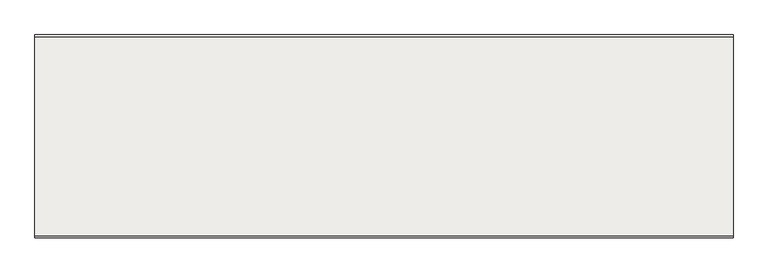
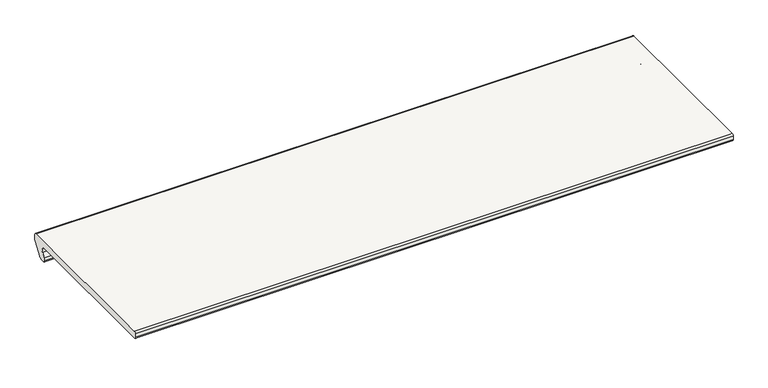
"""IFC4 building model written with IfcOpenShell, lengths in millimetres: slab geometry, ROSA GRES_J62 : Pieza J62_Tao_Beige_Anti-Slip."""

from ifc_helpers import new_model, si_unit, frame, origin, place, context, project, spatial, polyline, circle_curve, source, transform, mapped, element, save
from ifc_brep_helpers import plane_surface, cylinder_surface, revolved_surface, advanced_brep


def slab_45b15912(model_context):
    return source(origin(), model_context, "Body", "AdvancedBrep", [
        advanced_brep(
        [(1090.0, -317.0, 2.5), (1090.0, -314.5, 0.0), (1090.0, -29.6363327, 0.0), (1090.0, -24.5931401, -10.7276172), (1090.0, -29.4411632, -18.2354274), (1090.0, -29.4411632, -24.4017055), (1090.0, -26.7240304, -27.1188383), (1090.0, -20.3835268, -27.1188383), (1090.0, -19.4823107, -26.1230058), (1090.0, -18.5721049, -25.1262743), (1090.0, -17.666394, -25.1262743), (1090.0, -14.760096, -23.1626329), (1090.0, -0.7963935, -2.84429), (1090.0, 0.0, -0.2793766), (1090.0, 0.0, 8.2984975), (1090.0, -3.9876034, 12.7946269), (1090.0, -314.2818333, 12.7946269), (1090.0, -316.9989661, 10.0774941), (0.0, -317.0, 2.5), (0.0, -317.0, 10.0774941), (0.0, -314.2818333, 12.7946269), (0.0, -3.9876034, 12.7946269), (0.0, 0.0, 8.2984975), (0.0, 0.0, -0.2793766), (0.0, -0.7963935, -2.84429), (0.0, -14.760096, -23.1626329), (0.0, -17.666394, -25.1262743), (0.0, -18.5721049, -25.1262743), (0.0, -19.473321, -26.1221068), (0.0, -20.3835268, -27.1188383), (0.0, -26.7240304, -27.1188383), (0.0, -29.4411632, -24.4017055), (0.0, -29.4411632, -18.2354274), (0.0, -24.5931401, -10.7276172), (0.0, -29.6363327, 0.0), (0.0, -314.5, 0.0)],
        [
            (0, 1, circle_curve(frame((1090.0, -314.5, 2.5), z_axis=(1.0, 0.0, 0.0), x_axis=(0.0, -1.0, 0.0)), 2.5)),
            (1, 2),
            (2, 3, circle_curve(frame((1090.0, -30.1604402, -6.7956336), z_axis=(-1.0, 0.0, 0.0), x_axis=(0.0, 0.5768912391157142, 0.8168209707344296)), 6.8158144)),
            (3, 4),
            (4, 5),
            (5, 6, circle_curve(frame((1090.0, -26.7240304, -24.4017055), z_axis=(1.0, 0.0, 0.0), x_axis=(0.0, -1.0, 0.0)), 2.7171328)),
            (6, 7),
            (7, 8, circle_curve(frame((1090.0, -20.3835268, -26.2131274), z_axis=(1.0, 0.0, 0.0), x_axis=(0.0, 0.0995037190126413, -0.9950371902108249)), 0.9057109)),
            (8, 9, circle_curve(frame((1090.0, -18.5721049, -26.0319852), z_axis=(-1.0, 0.0, 0.0), x_axis=(0.0, -1.0, 0.0)), 0.9057109)),
            (9, 10),
            (10, 11, circle_curve(frame((1090.0, -18.9818017, -20.0468365), z_axis=(1.0, 0.0, 0.0), x_axis=(0.0, -0.5938246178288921, -0.804594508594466)), 5.2469978)),
            (11, 12),
            (12, 13, circle_curve(frame((1090.0, -4.5285547, -0.2793766), z_axis=(1.0, 0.0, 0.0), x_axis=(0.0, 0.0, -1.0)), 4.5285547)),
            (13, 14),
            (14, 15, circle_curve(frame((1090.0, -4.5285547, 8.2984975), z_axis=(1.0, 0.0, 0.0), x_axis=(0.0, 0.9928398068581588, -0.11945341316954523)), 4.5285547)),
            (15, 16),
            (16, 17, circle_curve(frame((1090.0, -314.2818333, 10.0774941), z_axis=(1.0, 0.0, 0.0), x_axis=(0.0, 0.0, 1.0)), 2.7171328)),
            (17, 0),
            (18, 19),
            (19, 20, circle_curve(frame((0.0, -314.2818333, 10.0774941), z_axis=(-1.0, 0.0, 0.0), x_axis=(0.0, 0.0, 1.0)), 2.7171328)),
            (20, 21),
            (21, 22, circle_curve(frame((0.0, -4.5285547, 8.2984975), z_axis=(-1.0, 0.0, 0.0), x_axis=(0.0, 0.9928398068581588, -0.11945341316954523)), 4.5285547)),
            (22, 23),
            (23, 24, circle_curve(frame((0.0, -4.5285547, -0.2793766), z_axis=(-1.0, 0.0, 0.0), x_axis=(0.0, 0.0, -1.0)), 4.5285547)),
            (24, 25),
            (25, 26, circle_curve(frame((0.0, -18.9818017, -20.0468365), z_axis=(-1.0, 0.0, 0.0), x_axis=(0.0, -0.5938246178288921, -0.804594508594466)), 5.2469978)),
            (26, 27),
            (27, 28, circle_curve(frame((0.0, -18.5721049, -26.0319852), z_axis=(1.0, 0.0, 0.0), x_axis=(0.0, -1.0, 0.0)), 0.9057109)),
            (28, 29, circle_curve(frame((0.0, -20.3835268, -26.2131274), z_axis=(-1.0, 0.0, 0.0), x_axis=(0.0, 0.0995037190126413, -0.9950371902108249)), 0.9057109)),
            (29, 30),
            (30, 31, circle_curve(frame((0.0, -26.7240304, -24.4017055), z_axis=(-1.0, 0.0, 0.0), x_axis=(0.0, -1.0, 0.0)), 2.7171328)),
            (31, 32),
            (32, 33),
            (33, 34, circle_curve(frame((0.0, -30.1604402, -6.7956336), z_axis=(1.0, 0.0, 0.0), x_axis=(0.0, 0.5768912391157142, 0.8168209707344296)), 6.8158144)),
            (34, 35),
            (35, 18, circle_curve(frame((0.0, -314.5, 2.5), z_axis=(-1.0, 0.0, 0.0), x_axis=(0.0, -1.0, 0.0)), 2.5)),
            (1, 35),
            (34, 2),
            (0, 18),
            (17, 19),
            (16, 20),
            (15, 21),
            (14, 22),
            (13, 23),
            (12, 24),
            (11, 25),
            (10, 26),
            (9, 27),
            (8, 28),
            (7, 29),
            (6, 30),
            (5, 31),
            (4, 32),
            (3, 33),
        ],
        [
            plane_surface(frame((1090.0, -317.0, 10.0774941), z_axis=(1.0, 0.0, 0.0), x_axis=(0.0, 0.0, 1.0))),
            plane_surface(frame((0.0, -317.0, 10.0774941), z_axis=(-1.0, 0.0, 0.0), x_axis=(0.0, 0.0, -1.0))),
            plane_surface(frame((1090.0, -172.0681664, 0.0), z_axis=(0.0, 0.0, -1.0), x_axis=(0.0, -1.0, 0.0))),
            cylinder_surface(frame((1090.0, -314.5, 2.5), z_axis=(-1.0, 0.0, 0.0), x_axis=(0.0, -1.0, 0.0)), 2.5),
            plane_surface(frame((1090.0, -317.0, 6.288747), z_axis=(0.0, -1.0, 0.0), x_axis=(0.0, 0.0, 1.0))),
            cylinder_surface(frame((1090.0, -314.2818333, 10.0774941), z_axis=(-1.0, 0.0, 0.0), x_axis=(0.0, 0.0, 1.0)), 2.7171328),
            plane_surface(frame((1090.0, -159.1347183, 12.7946269), z_axis=(0.0, 0.0, 1.0), x_axis=(0.0, 1.0, 0.0))),
            cylinder_surface(frame((1090.0, -4.5285547, 8.2984975), z_axis=(-1.0, 0.0, 0.0), x_axis=(0.0, 0.9928398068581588, -0.11945341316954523)), 4.5285547),
            plane_surface(frame((1090.0, 0.0, 4.0095604), z_axis=(0.0, 1.0, 0.0), x_axis=(0.0, 0.0, -1.0))),
            cylinder_surface(frame((1090.0, -4.5285547, -0.2793766), z_axis=(-1.0, 0.0, 0.0), x_axis=(0.0, 0.0, -1.0)), 4.5285547),
            plane_surface(frame((1090.0, -7.7782448, -13.0034614), z_axis=(0.0, 0.8241395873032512, -0.566386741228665), x_axis=(0.0, -0.566386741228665, -0.8241395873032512))),
            cylinder_surface(frame((1090.0, -18.9818017, -20.0468365), z_axis=(-1.0, 0.0, 0.0), x_axis=(0.0, -0.5938246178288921, -0.804594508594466)), 5.2469978),
            plane_surface(frame((1090.0, -18.1192494, -25.1262743), z_axis=(0.0, 1.2553789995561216e-11, -1.0), x_axis=(0.0, -1.0, -1.2553789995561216e-11))),
            revolved_surface(polyline([(0.0, -19.4778158, -26.0319852), (1090.0, -19.4778158, -26.0319852)]), (1090.0, -18.5721049, -26.0319852), (-1.0, 0.0, 0.0)),
            cylinder_surface(frame((1090.0, -20.3835268, -26.2131274), z_axis=(-1.0, 0.0, 0.0), x_axis=(0.0, 0.0995037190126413, -0.9950371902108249)), 0.9057109),
            plane_surface(frame((1090.0, -23.5537786, -27.1188383), z_axis=(0.0, 2.30093653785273e-12, -1.0), x_axis=(0.0, -1.0, -2.30093653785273e-12))),
            cylinder_surface(frame((1090.0, -26.7240304, -24.4017055), z_axis=(-1.0, 0.0, 0.0), x_axis=(0.0, -1.0, 0.0)), 2.7171328),
            plane_surface(frame((1090.0, -29.4411632, -21.3185665), z_axis=(0.0, -1.0, 0.0), x_axis=(0.0, 0.0, 1.0))),
            plane_surface(frame((1090.0, -27.0171517, -14.4815223), z_axis=(0.0, -0.8400786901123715, 0.5424645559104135), x_axis=(0.0, 0.5424645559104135, 0.8400786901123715))),
            revolved_surface(polyline([(0.0, -26.228456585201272, -1.2283334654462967), (1090.0, -26.228456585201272, -1.2283334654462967)]), (1090.0, -30.1604402, -6.7956336), (-1.0, 0.0, 0.0)),
        ],
        [
            (0, [[1, 2, 3, 4, 5, 6, 7, 8, 9, 10, 11, 12, 13, 14, 15, 16, 17, 18]]),
            (1, [[19, 20, 21, 22, 23, 24, 25, 26, 27, 28, 29, 30, 31, 32, 33, 34, 35, 36]]),
            (2, [[37, -35, 38, -2]]),
            (3, [[39, -36, -37, -1]]),
            (4, [[40, -19, -39, -18]]),
            (5, [[41, -20, -40, -17]]),
            (6, [[42, -21, -41, -16]]),
            (7, [[43, -22, -42, -15]]),
            (8, [[44, -23, -43, -14]]),
            (9, [[45, -24, -44, -13]]),
            (10, [[46, -25, -45, -12]]),
            (11, [[47, -26, -46, -11]]),
            (12, [[48, -27, -47, -10]]),
            (13, [[49, -28, -48, -9]]),
            (14, [[50, -29, -49, -8]]),
            (15, [[51, -30, -50, -7]]),
            (16, [[52, -31, -51, -6]]),
            (17, [[53, -32, -52, -5]]),
            (18, [[54, -33, -53, -4]]),
            (19, [[-38, -34, -54, -3]]),
        ],
    ),
    ])


if __name__ == "__main__":
    model = new_model("IFC4")
    model_context = context("Model", 3, world=origin())
    ifc_project = project(units=[si_unit("LENGTHUNIT", "METRE", prefix="MILLI")], contexts=[model_context])
    site = spatial("IfcSite", under=ifc_project)
    building = spatial("IfcBuilding", under=site)
    placement = place(None, origin())
    slab_shape = slab_45b15912(model_context)
    element("IfcSlab", 1, ObjectType="ROSA GRES_J62 : Pieza J62_Tao_Beige_Anti-Slip", at=placement, inside=building, context=model_context, shape_type="MappedRepresentation", body=[
        mapped(slab_shape, transform((0.0, 0.0, 0.0), x_axis=(1.0, 0.0, 0.0), y_axis=(0.0, 1.0, 0.0), z_axis=(0.0, 0.0, 1.0))),
    ])
    save(model, "model.ifc")
